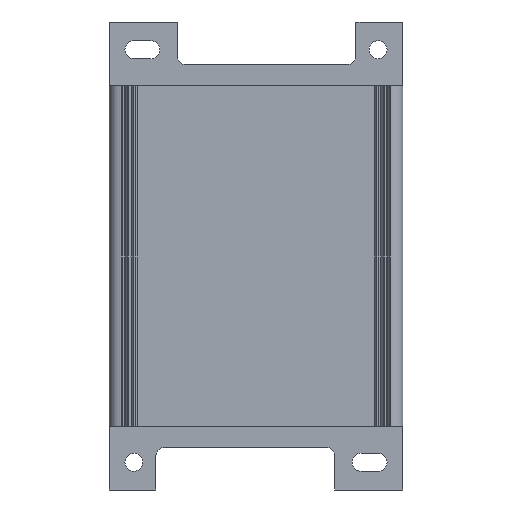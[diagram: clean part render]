
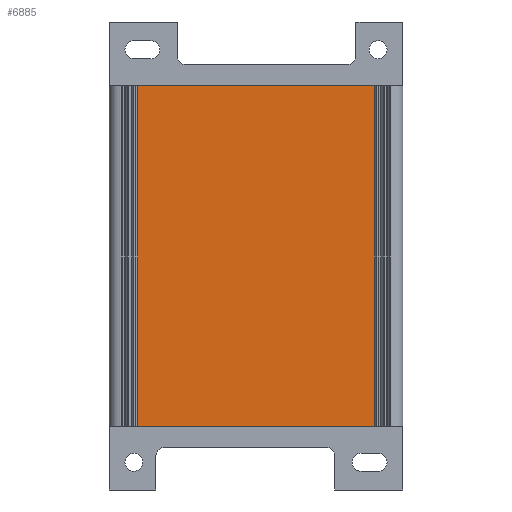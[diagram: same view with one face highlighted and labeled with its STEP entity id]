
A CAD part, front view. The second image highlights one B-rep face of the part: STEP entity #6885.
In plain terms, the highlighted planar face has unit normal (0, -1, 0).
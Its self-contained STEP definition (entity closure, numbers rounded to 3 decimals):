
#4814=DIRECTION('',(1.,0.,0.));
#4815=VECTOR('',#4814,55.7);
#4816=CARTESIAN_POINT('',(6.7,-14.28,80.));
#4817=LINE('',#4816,#4815);
#4923=DIRECTION('',(-1.,0.,0.));
#4924=VECTOR('',#4923,55.7);
#4925=CARTESIAN_POINT('',(62.4,-14.28,0.));
#4926=LINE('',#4925,#4924);
#5412=DIRECTION('',(0.,0.,1.));
#5413=VECTOR('',#5412,80.);
#5414=CARTESIAN_POINT('',(6.7,-14.28,0.));
#5415=LINE('',#5414,#5413);
#5424=DIRECTION('',(0.,0.,-1.));
#5425=VECTOR('',#5424,80.);
#5426=CARTESIAN_POINT('',(62.4,-14.28,80.));
#5427=LINE('',#5426,#5425);
#6199=CARTESIAN_POINT('',(62.4,-14.28,80.));
#6200=VERTEX_POINT('',#6199);
#6201=CARTESIAN_POINT('',(62.4,-14.28,0.));
#6202=VERTEX_POINT('',#6201);
#6203=CARTESIAN_POINT('',(6.7,-14.28,80.));
#6204=VERTEX_POINT('',#6203);
#6205=CARTESIAN_POINT('',(6.7,-14.28,0.));
#6206=VERTEX_POINT('',#6205);
#6873=CARTESIAN_POINT('',(62.4,-14.28,0.));
#6874=DIRECTION('',(0.,-1.,0.));
#6875=DIRECTION('',(0.,0.,-1.));
#6876=AXIS2_PLACEMENT_3D('',#6873,#6874,#6875);
#6877=PLANE('',#6876);
#6878=ORIENTED_EDGE('',*,*,#6463,.T.);
#6880=ORIENTED_EDGE('',*,*,#6879,.T.);
#6881=ORIENTED_EDGE('',*,*,#6532,.T.);
#6882=ORIENTED_EDGE('',*,*,#6866,.T.);
#6883=EDGE_LOOP('',(#6878,#6880,#6881,#6882));
#6884=FACE_OUTER_BOUND('',#6883,.F.);
#6463=EDGE_CURVE('',#6204,#6200,#4817,.T.);
#6532=EDGE_CURVE('',#6202,#6206,#4926,.T.);
#6866=EDGE_CURVE('',#6206,#6204,#5415,.T.);
#6879=EDGE_CURVE('',#6200,#6202,#5427,.T.);
#6885=ADVANCED_FACE('',(#6884),#6877,.T.);
